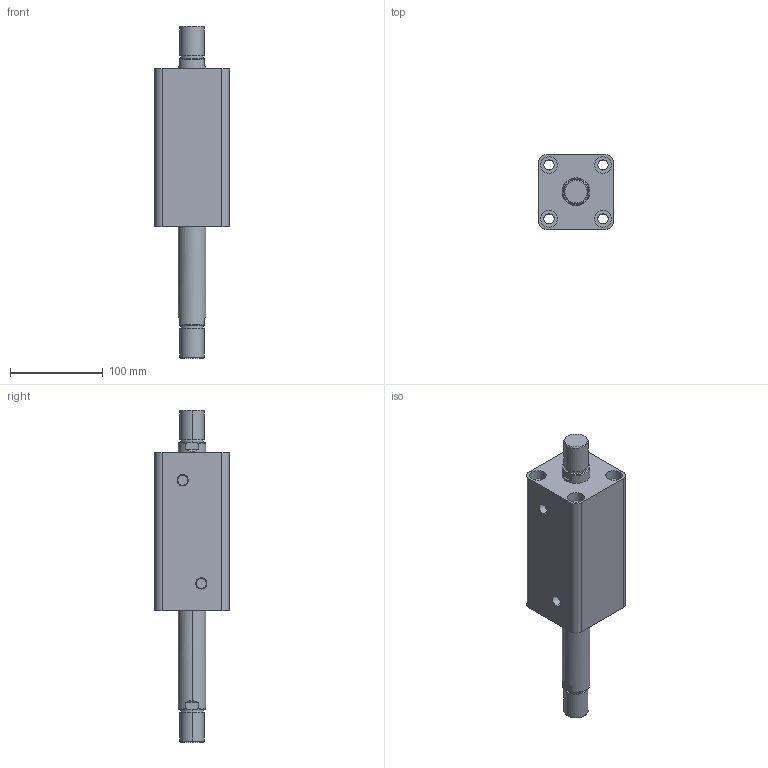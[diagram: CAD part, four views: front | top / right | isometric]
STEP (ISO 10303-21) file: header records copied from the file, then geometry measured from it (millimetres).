
FILE_DESCRIPTION (( 'STEP AP203' ), '1' );
FILE_NAME ('HTB-SW50-95W.STEP', '2019-10-07T09:27:13', ( '微软用户' ), ( '微软中国' ), 'SwSTEP 2.0', 'SolidWorks 2012', '' );
FILE_SCHEMA (( 'CONFIG_CONTROL_DESIGN' ));
Length unit declared in the file: millimetre
Products named in the file (3): HTB-SW50-95W; HTB-SW50-95W活塞杆; HTB-SW50-95掛极
Assembly tree (2 placements, depth 2):
  HTB-SW50-95W
    HTB-SW50-95掛极
    HTB-SW50-95W活塞杆
Bounding box: 80 x 80 x 357 mm (x, y, z)
Volume: 997400.9 mm3; surface area: 152604.2 mm2
Topology: 2 solids, 2 shells, 108 faces, 240 edges, 156 vertices
Faces by surface type: cylinder 52, plane 36, torus 12, cone 8
Entity records: 3449 total; most frequent: CARTESIAN_POINT 629, DIRECTION 586, ORIENTED_EDGE 480, AXIS2_PLACEMENT_3D 249, EDGE_CURVE 240, VERTEX_POINT 156, EDGE_LOOP 138, CIRCLE 136
